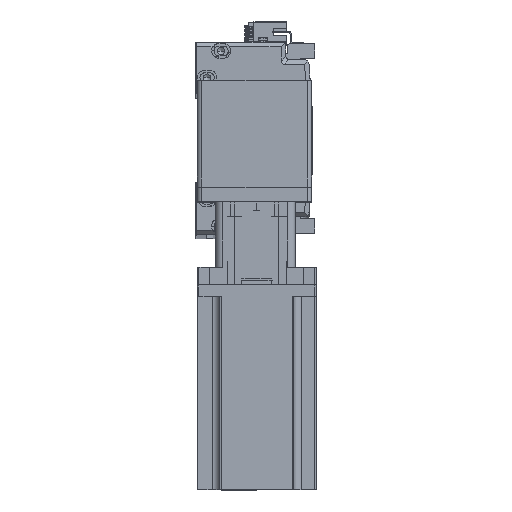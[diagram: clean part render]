
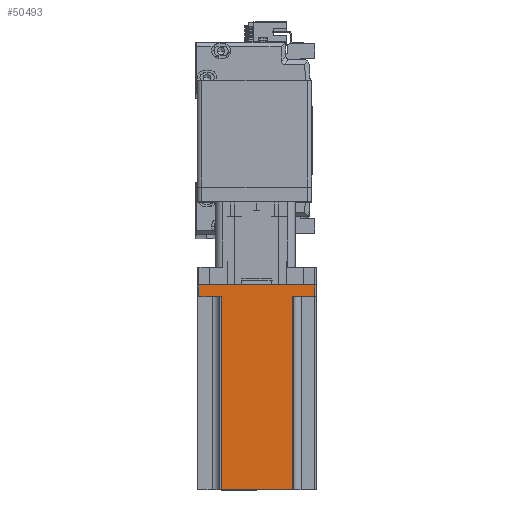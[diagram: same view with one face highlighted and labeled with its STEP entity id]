
A CAD part, top view. The second image highlights one B-rep face of the part: STEP entity #50493.
In plain terms, the highlighted planar face has unit normal (0, 0, 1) as drawn and (0, 1, 0) by its records, which use the part's own axes.
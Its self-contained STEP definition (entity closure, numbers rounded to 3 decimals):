
#256 = CARTESIAN_POINT ( 'NONE',  ( 39., 40., 8. ) ) ;
#758 = DIRECTION ( 'NONE',  ( 0., -1., 0. ) ) ;
#1037 = DIRECTION ( 'NONE',  ( 0., 0., -1. ) ) ;
#1103 = ORIENTED_EDGE ( 'NONE', *, *, #25060, .F. ) ;
#1688 = VERTEX_POINT ( 'NONE', #45602 ) ;
#2254 = VERTEX_POINT ( 'NONE', #31425 ) ;
#4350 = VECTOR ( 'NONE', #46174, 1000. ) ;
#4624 = EDGE_CURVE ( 'NONE', #41200, #45650, #5066, .T. ) ;
#5066 = LINE ( 'NONE', #23975, #48613 ) ;
#5144 = VERTEX_POINT ( 'NONE', #256 ) ;
#5595 = CARTESIAN_POINT ( 'NONE',  ( 24., 40., 138.3 ) ) ;
#5845 = DIRECTION ( 'NONE',  ( -1., 0., 0. ) ) ;
#10328 = VERTEX_POINT ( 'NONE', #28083 ) ;
#11034 = VERTEX_POINT ( 'NONE', #41856 ) ;
#11405 = LINE ( 'NONE', #35690, #56300 ) ;
#13362 = EDGE_CURVE ( 'NONE', #5144, #2254, #11405, .T. ) ;
#17569 = CARTESIAN_POINT ( 'NONE',  ( -24., 40., 8. ) ) ;
#17588 = LINE ( 'NONE', #38202, #27827 ) ;
#18099 = DIRECTION ( 'NONE',  ( 0., 0., 1. ) ) ;
#20727 = VECTOR ( 'NONE', #25235, 1000. ) ;
#20939 = DIRECTION ( 'NONE',  ( 1., 0., 0. ) ) ;
#21267 = EDGE_LOOP ( 'NONE', ( #22477, #31220, #1103, #39741, #53816, #51864, #33722, #43953 ) ) ;
#21506 = VECTOR ( 'NONE', #31667, 1000. ) ;
#21874 = PLANE ( 'NONE',  #48909 ) ;
#22477 = ORIENTED_EDGE ( 'NONE', *, *, #42941, .T. ) ;
#22734 = CARTESIAN_POINT ( 'NONE',  ( 39., 40., 138.3 ) ) ;
#23975 = CARTESIAN_POINT ( 'NONE',  ( -24., 40., 138.3 ) ) ;
#25060 = EDGE_CURVE ( 'NONE', #11034, #45650, #27014, .T. ) ;
#25235 = DIRECTION ( 'NONE',  ( 0., 0., 1. ) ) ;
#25347 = VECTOR ( 'NONE', #1037, 1000. ) ;
#26773 = CARTESIAN_POINT ( 'NONE',  ( 40., 40., 138.3 ) ) ;
#27014 = LINE ( 'NONE', #36451, #48782 ) ;
#27827 = VECTOR ( 'NONE', #20939, 1000. ) ;
#28083 = CARTESIAN_POINT ( 'NONE',  ( -39., 40., 0. ) ) ;
#31149 = DIRECTION ( 'NONE',  ( 1., 0., 0. ) ) ;
#31220 = ORIENTED_EDGE ( 'NONE', *, *, #4624, .T. ) ;
#31425 = CARTESIAN_POINT ( 'NONE',  ( 24., 40., 8. ) ) ;
#31667 = DIRECTION ( 'NONE',  ( 0., 0., -1. ) ) ;
#32509 = VERTEX_POINT ( 'NONE', #45852 ) ;
#33722 = ORIENTED_EDGE ( 'NONE', *, *, #55326, .T. ) ;
#35528 = LINE ( 'NONE', #22734, #25347 ) ;
#35690 = CARTESIAN_POINT ( 'NONE',  ( 25., 40., 8. ) ) ;
#36451 = CARTESIAN_POINT ( 'NONE',  ( 40., 40., 138.3 ) ) ;
#38202 = CARTESIAN_POINT ( 'NONE',  ( -25., 40., 8. ) ) ;
#39741 = ORIENTED_EDGE ( 'NONE', *, *, #51132, .T. ) ;
#40038 = DIRECTION ( 'NONE',  ( -1., 0., 0. ) ) ;
#40409 = LINE ( 'NONE', #54984, #4350 ) ;
#41033 = EDGE_CURVE ( 'NONE', #10328, #1688, #54042, .T. ) ;
#41200 = VERTEX_POINT ( 'NONE', #17569 ) ;
#41856 = CARTESIAN_POINT ( 'NONE',  ( 24., 40., 138.3 ) ) ;
#41887 = FACE_OUTER_BOUND ( 'NONE', #21267, .T. ) ;
#42941 = EDGE_CURVE ( 'NONE', #1688, #41200, #17588, .T. ) ;
#43953 = ORIENTED_EDGE ( 'NONE', *, *, #41033, .T. ) ;
#45602 = CARTESIAN_POINT ( 'NONE',  ( -39., 40., 8. ) ) ;
#45650 = VERTEX_POINT ( 'NONE', #45776 ) ;
#45776 = CARTESIAN_POINT ( 'NONE',  ( -24., 40., 138.3 ) ) ;
#45852 = CARTESIAN_POINT ( 'NONE',  ( 39., 40., 0. ) ) ;
#46174 = DIRECTION ( 'NONE',  ( -1., 0., 0. ) ) ;
#48613 = VECTOR ( 'NONE', #18099, 1000. ) ;
#48782 = VECTOR ( 'NONE', #5845, 1000. ) ;
#48909 = AXIS2_PLACEMENT_3D ( 'NONE', #26773, #758, #31149 ) ;
#50493 = ADVANCED_FACE ( 'NONE', ( #41887 ), #21874, .F. ) ;
#51132 = EDGE_CURVE ( 'NONE', #11034, #2254, #54861, .T. ) ;
#51864 = ORIENTED_EDGE ( 'NONE', *, *, #54580, .T. ) ;
#53816 = ORIENTED_EDGE ( 'NONE', *, *, #13362, .F. ) ;
#54042 = LINE ( 'NONE', #55715, #20727 ) ;
#54580 = EDGE_CURVE ( 'NONE', #5144, #32509, #35528, .T. ) ;
#54861 = LINE ( 'NONE', #5595, #21506 ) ;
#54984 = CARTESIAN_POINT ( 'NONE',  ( 40., 40., 0. ) ) ;
#55326 = EDGE_CURVE ( 'NONE', #32509, #10328, #40409, .T. ) ;
#55715 = CARTESIAN_POINT ( 'NONE',  ( -39., 40., 138.3 ) ) ;
#56300 = VECTOR ( 'NONE', #40038, 1000. ) ;
